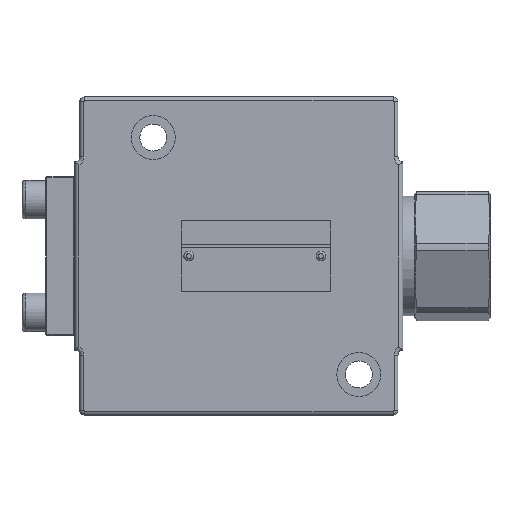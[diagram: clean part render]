
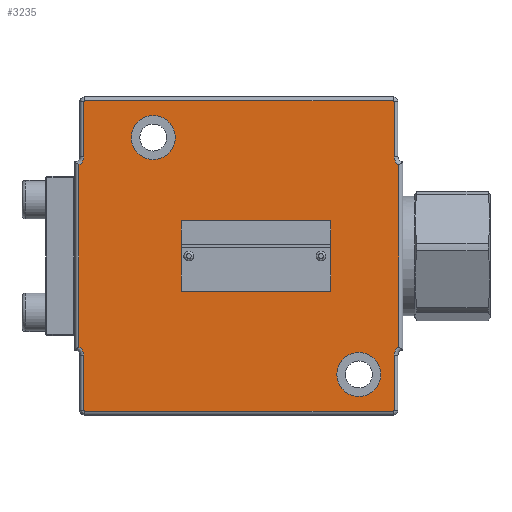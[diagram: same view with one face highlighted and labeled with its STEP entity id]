
A CAD part, front view. The second image highlights one B-rep face of the part: STEP entity #3235.
In plain terms, the highlighted planar face has unit normal (0, -1, 0).
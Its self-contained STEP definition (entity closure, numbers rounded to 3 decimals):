
#2487=PLANE('',#13331);
#2921=FACE_BOUND('',#4526,.T.);
#2922=FACE_BOUND('',#4527,.T.);
#2923=FACE_BOUND('',#4528,.T.);
#2924=FACE_BOUND('',#4529,.T.);
#2925=FACE_BOUND('',#4530,.T.);
#3235=ADVANCED_FACE('',(#2921,#2922,#2923,#2924,#2925),#2487,.F.);
#4526=EDGE_LOOP('',(#6266,#6267,#6268,#6269,#6270,#6271,#6272,#6273,#6274,
#6275,#6276,#6277,#6278,#6279,#6280,#6281));
#4527=EDGE_LOOP('',(#6282));
#4528=EDGE_LOOP('',(#6283));
#4529=EDGE_LOOP('',(#6284));
#4530=EDGE_LOOP('',(#6285));
#5173=CIRCLE('',#13319,0.4);
#5174=CIRCLE('',#13320,0.4);
#5175=CIRCLE('',#13321,3.6);
#5176=CIRCLE('',#13322,3.6);
#5177=CIRCLE('',#13323,0.4);
#5178=CIRCLE('',#13324,0.4);
#5179=CIRCLE('',#13325,3.6);
#5180=CIRCLE('',#13326,3.6);
#5181=CIRCLE('',#13327,0.9);
#5182=CIRCLE('',#13328,0.9);
#5183=CIRCLE('',#13329,9.);
#5184=CIRCLE('',#13330,9.);
#6266=ORIENTED_EDGE('',*,*,#9957,.T.);
#6267=ORIENTED_EDGE('',*,*,#9958,.T.);
#6268=ORIENTED_EDGE('',*,*,#9959,.T.);
#6269=ORIENTED_EDGE('',*,*,#9960,.T.);
#6270=ORIENTED_EDGE('',*,*,#9961,.T.);
#6271=ORIENTED_EDGE('',*,*,#9962,.T.);
#6272=ORIENTED_EDGE('',*,*,#9963,.T.);
#6273=ORIENTED_EDGE('',*,*,#9964,.T.);
#6274=ORIENTED_EDGE('',*,*,#9965,.T.);
#6275=ORIENTED_EDGE('',*,*,#9966,.T.);
#6276=ORIENTED_EDGE('',*,*,#9967,.T.);
#6277=ORIENTED_EDGE('',*,*,#9968,.T.);
#6278=ORIENTED_EDGE('',*,*,#9969,.T.);
#6279=ORIENTED_EDGE('',*,*,#9970,.T.);
#6280=ORIENTED_EDGE('',*,*,#9971,.T.);
#6281=ORIENTED_EDGE('',*,*,#9972,.T.);
#6282=ORIENTED_EDGE('',*,*,#9973,.T.);
#6283=ORIENTED_EDGE('',*,*,#9974,.T.);
#6284=ORIENTED_EDGE('',*,*,#9975,.F.);
#6285=ORIENTED_EDGE('',*,*,#9976,.T.);
#8823=VERTEX_POINT('',#35475);
#8824=VERTEX_POINT('',#35476);
#8825=VERTEX_POINT('',#35478);
#8826=VERTEX_POINT('',#35480);
#8827=VERTEX_POINT('',#35482);
#8828=VERTEX_POINT('',#35484);
#8829=VERTEX_POINT('',#35486);
#8830=VERTEX_POINT('',#35488);
#8831=VERTEX_POINT('',#35490);
#8832=VERTEX_POINT('',#35492);
#8833=VERTEX_POINT('',#35494);
#8834=VERTEX_POINT('',#35496);
#8835=VERTEX_POINT('',#35498);
#8836=VERTEX_POINT('',#35500);
#8837=VERTEX_POINT('',#35502);
#8838=VERTEX_POINT('',#35504);
#8839=VERTEX_POINT('',#35507);
#8840=VERTEX_POINT('',#35509);
#8841=VERTEX_POINT('',#35511);
#8842=VERTEX_POINT('',#35513);
#9957=EDGE_CURVE('',#8823,#8824,#5173,.T.);
#9958=EDGE_CURVE('',#8824,#8825,#11227,.T.);
#9959=EDGE_CURVE('',#8825,#8826,#5174,.T.);
#9960=EDGE_CURVE('',#8826,#8827,#11228,.T.);
#9961=EDGE_CURVE('',#8827,#8828,#5175,.T.);
#9962=EDGE_CURVE('',#8828,#8829,#11229,.T.);
#9963=EDGE_CURVE('',#8829,#8830,#5176,.T.);
#9964=EDGE_CURVE('',#8830,#8831,#11230,.T.);
#9965=EDGE_CURVE('',#8831,#8832,#5177,.T.);
#9966=EDGE_CURVE('',#8832,#8833,#11231,.T.);
#9967=EDGE_CURVE('',#8833,#8834,#5178,.T.);
#9968=EDGE_CURVE('',#8834,#8835,#11232,.T.);
#9969=EDGE_CURVE('',#8835,#8836,#5179,.T.);
#9970=EDGE_CURVE('',#8836,#8837,#11233,.T.);
#9971=EDGE_CURVE('',#8837,#8838,#5180,.T.);
#9972=EDGE_CURVE('',#8838,#8823,#11234,.T.);
#9973=EDGE_CURVE('',#8839,#8839,#5181,.T.);
#9974=EDGE_CURVE('',#8840,#8840,#5182,.T.);
#9975=EDGE_CURVE('',#8841,#8841,#5183,.T.);
#9976=EDGE_CURVE('',#8842,#8842,#5184,.T.);
#11227=LINE('',#35477,#12212);
#11228=LINE('',#35481,#12213);
#11229=LINE('',#35485,#12214);
#11230=LINE('',#35489,#12215);
#11231=LINE('',#35493,#12216);
#11232=LINE('',#35497,#12217);
#11233=LINE('',#35501,#12218);
#11234=LINE('',#35505,#12219);
#12212=VECTOR('',#14625,1.);
#12213=VECTOR('',#14628,1.);
#12214=VECTOR('',#14631,1.);
#12215=VECTOR('',#14634,1.);
#12216=VECTOR('',#14637,1.);
#12217=VECTOR('',#14640,1.);
#12218=VECTOR('',#14643,1.);
#12219=VECTOR('',#14646,1.);
#13319=AXIS2_PLACEMENT_3D('',#35474,#14623,#14624);
#13320=AXIS2_PLACEMENT_3D('',#35479,#14626,#14627);
#13321=AXIS2_PLACEMENT_3D('',#35483,#14629,#14630);
#13322=AXIS2_PLACEMENT_3D('',#35487,#14632,#14633);
#13323=AXIS2_PLACEMENT_3D('',#35491,#14635,#14636);
#13324=AXIS2_PLACEMENT_3D('',#35495,#14638,#14639);
#13325=AXIS2_PLACEMENT_3D('',#35499,#14641,#14642);
#13326=AXIS2_PLACEMENT_3D('',#35503,#14644,#14645);
#13327=AXIS2_PLACEMENT_3D('',#35506,#14647,#14648);
#13328=AXIS2_PLACEMENT_3D('',#35508,#14649,#14650);
#13329=AXIS2_PLACEMENT_3D('',#35510,#14651,#14652);
#13330=AXIS2_PLACEMENT_3D('',#35512,#14653,#14654);
#13331=AXIS2_PLACEMENT_3D('',#35514,#14655,#14656);
#14623=DIRECTION('',(0.,-1.,0.));
#14624=DIRECTION('',(0.,0.,1.));
#14625=DIRECTION('',(-1.,0.,0.));
#14626=DIRECTION('',(0.,-1.,0.));
#14627=DIRECTION('',(0.,0.,1.));
#14628=DIRECTION('',(0.,0.,-1.));
#14629=DIRECTION('',(0.,1.,0.));
#14630=DIRECTION('',(0.,0.,1.));
#14631=DIRECTION('',(0.,0.,-1.));
#14632=DIRECTION('',(0.,1.,0.));
#14633=DIRECTION('',(0.,0.,1.));
#14634=DIRECTION('',(0.,0.,-1.));
#14635=DIRECTION('',(0.,-1.,0.));
#14636=DIRECTION('',(0.,0.,1.));
#14637=DIRECTION('',(1.,0.,0.));
#14638=DIRECTION('',(0.,-1.,0.));
#14639=DIRECTION('',(0.,0.,1.));
#14640=DIRECTION('',(0.,0.,1.));
#14641=DIRECTION('',(0.,1.,0.));
#14642=DIRECTION('',(0.,0.,1.));
#14643=DIRECTION('',(0.,0.,1.));
#14644=DIRECTION('',(0.,1.,0.));
#14645=DIRECTION('',(0.,0.,1.));
#14646=DIRECTION('',(0.,0.,1.));
#14647=DIRECTION('',(0.,1.,0.));
#14648=DIRECTION('',(0.,0.,1.));
#14649=DIRECTION('',(0.,1.,0.));
#14650=DIRECTION('',(0.,0.,1.));
#14651=DIRECTION('',(0.,-1.,0.));
#14652=DIRECTION('',(1.,0.,0.));
#14653=DIRECTION('',(0.,1.,0.));
#14654=DIRECTION('',(1.,0.,0.));
#14655=DIRECTION('',(0.,1.,0.));
#14656=DIRECTION('',(1.,0.,0.));
#35474=CARTESIAN_POINT('',(751.462,246.116,63.));
#35475=CARTESIAN_POINT('',(751.862,246.116,63.));
#35476=CARTESIAN_POINT('',(751.462,246.116,63.4));
#35477=CARTESIAN_POINT('',(625.462,246.116,63.4));
#35478=CARTESIAN_POINT('',(625.462,246.116,63.4));
#35479=CARTESIAN_POINT('',(625.462,246.116,63.));
#35480=CARTESIAN_POINT('',(625.062,246.116,63.));
#35481=CARTESIAN_POINT('',(625.062,246.116,40.5));
#35482=CARTESIAN_POINT('',(625.062,246.116,40.5));
#35483=CARTESIAN_POINT('',(621.462,246.116,40.5));
#35484=CARTESIAN_POINT('',(623.062,246.116,37.275));
#35485=CARTESIAN_POINT('',(623.062,246.116,-38.5));
#35486=CARTESIAN_POINT('',(623.062,246.116,-37.275));
#35487=CARTESIAN_POINT('',(621.462,246.116,-40.5));
#35488=CARTESIAN_POINT('',(625.062,246.116,-40.5));
#35489=CARTESIAN_POINT('',(625.062,246.116,-63.));
#35490=CARTESIAN_POINT('',(625.062,246.116,-63.));
#35491=CARTESIAN_POINT('',(625.462,246.116,-63.));
#35492=CARTESIAN_POINT('',(625.462,246.116,-63.4));
#35493=CARTESIAN_POINT('',(751.462,246.116,-63.4));
#35494=CARTESIAN_POINT('',(751.462,246.116,-63.4));
#35495=CARTESIAN_POINT('',(751.462,246.116,-63.));
#35496=CARTESIAN_POINT('',(751.862,246.116,-63.));
#35497=CARTESIAN_POINT('',(751.862,246.116,-40.5));
#35498=CARTESIAN_POINT('',(751.862,246.116,-40.5));
#35499=CARTESIAN_POINT('',(755.462,246.116,-40.5));
#35500=CARTESIAN_POINT('',(753.862,246.116,-37.275));
#35501=CARTESIAN_POINT('',(753.862,246.116,38.5));
#35502=CARTESIAN_POINT('',(753.862,246.116,37.275));
#35503=CARTESIAN_POINT('',(755.462,246.116,40.5));
#35504=CARTESIAN_POINT('',(751.862,246.116,40.5));
#35505=CARTESIAN_POINT('',(751.862,246.116,63.));
#35506=CARTESIAN_POINT('',(721.962,246.116,0.));
#35507=CARTESIAN_POINT('',(721.962,246.116,0.9));
#35508=CARTESIAN_POINT('',(667.962,246.116,0.));
#35509=CARTESIAN_POINT('',(667.962,246.116,0.9));
#35510=CARTESIAN_POINT('',(737.462,246.116,-48.4));
#35511=CARTESIAN_POINT('',(746.462,246.116,-48.4));
#35512=CARTESIAN_POINT('',(653.462,246.116,48.4));
#35513=CARTESIAN_POINT('',(662.462,246.116,48.4));
#35514=CARTESIAN_POINT('',(751.462,246.116,63.));
